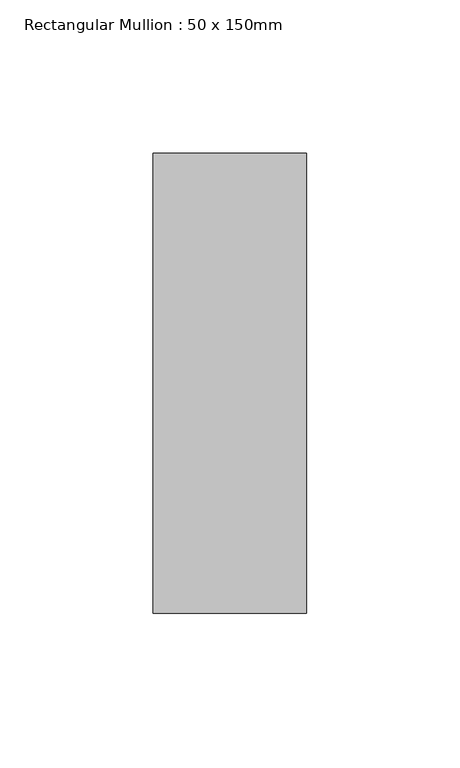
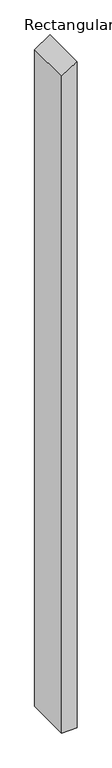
"""IFC4 building model written with IfcOpenShell, lengths in millimetres: member geometry, Rectangular Mullion : 50 x 150mm."""

from ifc_helpers import new_model, si_unit, frame, origin, place, context, project, spatial, polyline, outline, extrude, source, transform, mapped, element, save


def rectangular_mullion_50_x_150mm_5cd79adc(model_context):
    return source(origin(), model_context, "Body", "SweptSolid", [
        extrude(outline(polyline([(-43.3780246, 25.0), (-75.7358326, -25.0), (-2310.0149507, -25.0), (-2310.0149507, 25.0), (-43.3780246, 25.0)])), frame((0.0, -75.0, 0.0), z_axis=(0.0, 1.0, 0.0), x_axis=(0.0, 0.0, 1.0)), (0.0, 0.0, 1.0), 150.0),
    ])


if __name__ == "__main__":
    model = new_model("IFC4")
    model_context = context("Model", 3, world=origin())
    ifc_project = project(units=[si_unit("LENGTHUNIT", "METRE", prefix="MILLI")], contexts=[model_context])
    site = spatial("IfcSite", under=ifc_project)
    building = spatial("IfcBuilding", under=site)
    placement = place(None, origin())
    rectangular_mullion_50_x_150mm_shape = rectangular_mullion_50_x_150mm_5cd79adc(model_context)
    element("IfcMember", 1, ObjectType="Rectangular Mullion : 50 x 150mm", at=placement, inside=building, context=model_context, shape_type="MappedRepresentation", body=[
        mapped(rectangular_mullion_50_x_150mm_shape, transform((0.0, 0.0, 0.0), x_axis=(1.0, 0.0, 0.0), y_axis=(0.0, 1.0, 0.0), z_axis=(0.0, 0.0, 1.0))),
    ])
    save(model, "model.ifc")
